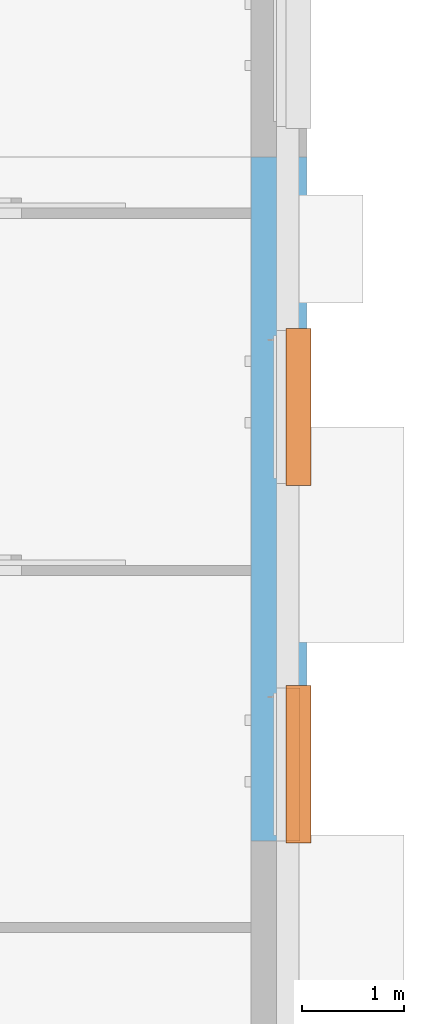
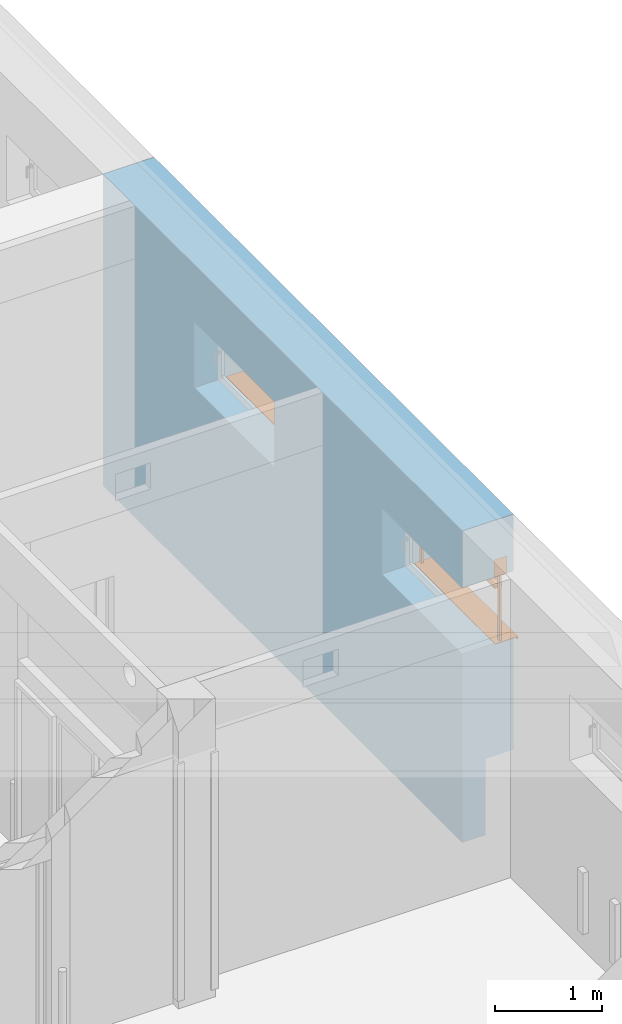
# One storey, part 112 of 140: 3 proxies, 2 openings, plus 1 element that does not belong to this part.
"""IFC4 building model written with IfcOpenShell, lengths in metres."""

from ifc_helpers import new_model, entity, si_unit, converted_unit, derived_unit, frame, frame_2d, origin, origin_with_axes, place, context, subcontext, project, spatial, polyline, rectangle, outline, extrude, clip, bounded_halfspace, faceted_brep, source, transform, mapped, material, layer, layer_set, layer_usage, element, fill, save


model = new_model("IFC4")

# Units and contexts
model_context = context("Model", 3, precision=1e-05, world=origin())
body_context = subcontext(model_context, "Body", "Model", "MODEL_VIEW")
ifc_project = project(units=[si_unit("LENGTHUNIT", "METRE"), si_unit("AREAUNIT", "SQUARE_METRE"), si_unit("VOLUMEUNIT", "CUBIC_METRE"), si_unit("MASSUNIT", "GRAM", prefix="KILO"), converted_unit("PLANEANGLEUNIT", "DEGREE", entity("IfcPlaneAngleMeasure", 0.0174532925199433), si_unit("PLANEANGLEUNIT", "RADIAN"), dimensions=[0, 0, 0, 0, 0, 0, 0]), derived_unit("THERMALTRANSMITTANCEUNIT", [(si_unit("POWERUNIT", "WATT"), 1), (si_unit("THERMODYNAMICTEMPERATUREUNIT", "KELVIN"), -1), (si_unit("LENGTHUNIT", "METRE"), -2)]), derived_unit("VOLUMETRICFLOWRATEUNIT", [(si_unit("LENGTHUNIT", "METRE"), 3), (converted_unit("TIMEUNIT", "hour", entity("IfcTimeMeasure", 3600.0), si_unit("TIMEUNIT", "SECOND"), dimensions=[0, 0, 1, 0, 0, 0, 0]), -1), (si_unit("LENGTHUNIT", "METRE"), -1)])], contexts=[model_context])

# Site, building, storey
site_placement = place(None, origin())
site = spatial("IfcSite", under=ifc_project, at=site_placement, Name="3. ASŘ", CompositionType="ELEMENT")
building_placement = place(site_placement, origin())
building = spatial("IfcBuilding", under=site, at=building_placement, Name="Pavilon C", CompositionType="ELEMENT")
storey_placement = place(building_placement, origin())
storey = spatial("IfcBuildingStorey", under=building, at=storey_placement, Name="Půdorys 1.NP", CompositionType="ELEMENT", Elevation=0.0)

# Wall, openings, proxies
ifc_material_1 = material(Name="ZELEZOBETONOVÁ KCE")
ifc_layer_1 = layer(ifc_material_1, 0.25)
ifc_material_2 = material(Name="MINERÁLNÍ VATA")
ifc_layer_2 = layer(ifc_material_2, 0.3)
ifc_layer_set = layer_set([ifc_layer_1, ifc_layer_2])
ifc_layer_usage = layer_usage(ifc_layer_set, "AXIS2", "POSITIVE", 0.0)
wall_placement = place(storey_placement, frame((63.55, 17.6, -0.15), z_axis=(0.0, 0.0, 1.0), x_axis=(0.0, -1.0, 0.0)))
wall = element("IfcWall", 1, at=wall_placement, inside=storey, material=ifc_layer_usage, Name="ZELEZOBETONOVÁ KCE", context=body_context, shape_type="Clipping", body=[
    clip(extrude(rectangle(XDim=6.7, YDim=0.55, at=frame_2d((3.35, 0.275), x_axis=(1.0, 0.0))), origin_with_axes(), (0.0, 0.0, 1.0), 3.55), bounded_halfspace(frame((3.35, 0.4, 0.87), z_axis=(1.69681847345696e-17, -3.78956125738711e-16, 1.0), x_axis=(0.0, -1.0, 0.0)), True, origin_with_axes(), polyline([(0.0, 0.55), (0.0, 0.249999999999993), (6.7, 0.249999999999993), (6.7, 0.55), (0.0, 0.55)]))),
])
opening_1_placement = place(wall_placement, frame((6.7, 0.25, 2.15), z_axis=(0.0, -1.0, 0.0), x_axis=(0.0, 0.0, 1.0)))
opening_1 = element("IfcOpeningElement", 2, at=opening_1_placement, cuts=wall, Name="Okenní otvor", ObjectType="Opening", context=body_context, shape_type="SweptSolid", body=[
    extrude(outline(polyline([(0.0, 1.5), (0.75, 1.5), (0.75, 0.0), (0.0, 0.0), (0.0, 1.5)])), origin_with_axes(), (0.0, 0.0, 1.0), 0.25),
    extrude(outline(polyline([(0.0, 1.5), (0.75, 1.5), (0.75, 0.0), (0.0, 0.0), (0.0, 1.5)])), frame((0.0, 0.0, -0.3), z_axis=(0.0, 0.0, 1.0), x_axis=(1.0, 0.0, 0.0)), (0.0, 0.0, 1.0), 0.3),
])
opening_2_placement = place(wall_placement, frame((3.2, 0.25, 2.15), z_axis=(0.0, -1.0, 0.0), x_axis=(0.0, 0.0, 1.0)))
opening_2 = element("IfcOpeningElement", 3, at=opening_2_placement, cuts=wall, Name="Okenní otvor", ObjectType="Opening", context=body_context, shape_type="SweptSolid", body=[
    extrude(outline(polyline([(0.0, 1.5), (0.75, 1.5), (0.75, 0.0), (0.0, 0.0), (0.0, 1.5)])), origin_with_axes(), (0.0, 0.0, 1.0), 0.25),
    extrude(outline(polyline([(0.0, 1.5), (0.75, 1.5), (0.75, 0.0), (0.0, 0.0), (0.0, 1.5)])), frame((0.0, 0.0, -0.3), z_axis=(0.0, 0.0, 1.0), x_axis=(1.0, 0.0, 0.0)), (0.0, 0.0, 1.0), 0.3),
])
ifc_material_3 = material(Name="HLINÍKOVÝ PLECH ELOXOVANÝ")
shared_shape_1 = source(origin_with_axes(), body_context, "Body", "Brep", [
    faceted_brep([(-3.63797880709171e-15, -0.299999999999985, 0.0), (-3.63797880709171e-15, -0.0919999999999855, 0.0), (-3.63797880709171e-15, -0.0919999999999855, 0.005), (-3.63797880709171e-15, -0.299999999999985, 0.005), (1.5, -0.299999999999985, 0.0), (1.5, -0.299999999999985, 0.005), (1.5, -0.0919999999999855, 0.005), (1.5, -0.0919999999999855, 0.0), (-0.0200000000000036, -0.299999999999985, 0.0), (-0.0200000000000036, -0.334999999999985, 0.0), (1.52, -0.334999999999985, 0.0), (1.52, -0.299999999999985, 0.0), (1.52, -0.299999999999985, 0.005), (1.52, -0.339999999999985, 0.005), (-0.0200000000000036, -0.339999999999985, 0.005), (-0.0200000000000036, -0.299999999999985, 0.005), (-0.0200000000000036, -0.339999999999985, -0.025), (-0.0200000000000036, -0.334999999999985, -0.025), (1.52, -0.334999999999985, -0.025), (1.52, -0.339999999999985, -0.025)], [[[0, 1, 2, 3]], [[4, 5, 6, 7]], [[1, 0, 8, 9, 10, 11, 4, 7]], [[2, 1, 7, 6]], [[3, 2, 6, 5, 12, 13, 14, 15]], [[8, 15, 14, 16, 17, 9]], [[11, 10, 18, 19, 13, 12]], [[15, 8, 0, 3]], [[5, 4, 11, 12]], [[16, 14, 13, 19]], [[17, 16, 19, 18]], [[9, 17, 18, 10]]], orient=[[False], [False], [False], [False], [False], [False], [False], [False], [False], [False], [False], [False]]),
    faceted_brep([(-0.0200000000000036, -0.299999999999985, 0.0), (-0.0200000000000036, -0.0919999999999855, 0.0), (-0.0200000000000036, -0.0919999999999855, 0.005), (-0.0200000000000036, -0.299999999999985, 0.005), (-3.63797880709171e-15, -0.299999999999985, 0.0), (-3.63797880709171e-15, -0.299999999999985, 0.005), (-3.63797880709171e-15, -0.0919999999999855, 0.005), (-3.63797880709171e-15, -0.0919999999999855, 0.0)], [[[0, 1, 2, 3]], [[4, 5, 6, 7]], [[1, 0, 4, 7]], [[2, 1, 7, 6]], [[3, 2, 6, 5]], [[0, 3, 5, 4]]], orient=[[False], [False], [False], [False], [False], [False]]),
    faceted_brep([(1.5, -0.299999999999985, 0.0), (1.5, -0.0919999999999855, 0.0), (1.5, -0.0919999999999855, 0.005), (1.5, -0.299999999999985, 0.005), (1.52, -0.299999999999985, 0.0), (1.52, -0.299999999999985, 0.005), (1.52, -0.0919999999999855, 0.005), (1.52, -0.0919999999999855, 0.0)], [[[0, 1, 2, 3]], [[4, 5, 6, 7]], [[1, 0, 4, 7]], [[2, 1, 7, 6]], [[3, 2, 6, 5]], [[0, 3, 5, 4]]], orient=[[False], [False], [False], [False], [False], [False]]),
])
proxy_1_placement = place(opening_1_placement, frame((0.0, 0.0, 0.0), z_axis=(1.0, 0.0, 0.0), x_axis=(0.0, 1.0, 0.0)))
proxy_1 = element("IfcBuildingElementProxy", 4, at=proxy_1_placement, inside=storey, material=ifc_material_3, Name="Parapet vnější", context=body_context, shape_type="MappedRepresentation", body=[
    mapped(shared_shape_1, transform((0.0, 0.0, 0.0), x_axis=(1.0, 0.0, 0.0), y_axis=(0.0, 1.0, 0.0), z_axis=(0.0, 0.0, 1.0), scale=1.0)),
])
fill(opening_1, proxy_1)
shared_shape_2 = source(origin_with_axes(), body_context, "Body", "Brep", [
    faceted_brep([(-3.63797880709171e-15, -0.231999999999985, 0.75), (-3.63797880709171e-15, -0.229999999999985, 0.75), (-3.63797880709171e-15, -0.229999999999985, 0.948), (-3.63797880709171e-15, -0.0939999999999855, 0.948), (-3.63797880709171e-15, -0.0939999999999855, 0.75), (-3.63797880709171e-15, -0.0919999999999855, 0.75), (-3.63797880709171e-15, -0.0919999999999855, 0.95), (-3.63797880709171e-15, -0.231999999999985, 0.95), (1.5, -0.229999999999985, 0.75), (1.5, -0.231999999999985, 0.75), (1.5, -0.231999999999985, 0.95), (1.5, -0.0919999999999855, 0.95), (1.5, -0.0919999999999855, 0.75), (1.5, -0.0939999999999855, 0.75), (1.5, -0.0939999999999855, 0.948), (1.5, -0.229999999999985, 0.948)], [[[0, 1, 2, 3, 4, 5, 6, 7]], [[8, 9, 10, 11, 12, 13, 14, 15]], [[1, 0, 9, 8]], [[2, 1, 8, 15]], [[3, 2, 15, 14]], [[4, 3, 14, 13]], [[5, 4, 13, 12]], [[6, 5, 12, 11]], [[7, 6, 11, 10]], [[0, 7, 10, 9]]], orient=[[False], [False], [False], [False], [False], [False], [False], [False], [False], [False]]),
    faceted_brep([(-3.63797880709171e-15, -0.229999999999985, 0.75), (-3.63797880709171e-15, -0.0939999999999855, 0.75), (-3.63797880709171e-15, -0.0939999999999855, 0.948), (-3.63797880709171e-15, -0.229999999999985, 0.948), (0.00199999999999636, -0.0939999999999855, 0.75), (0.00199999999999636, -0.229999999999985, 0.75), (0.00199999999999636, -0.229999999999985, 0.948), (0.00199999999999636, -0.0939999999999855, 0.948)], [[[0, 1, 2, 3]], [[4, 5, 6, 7]], [[1, 0, 5, 4]], [[2, 1, 4, 7]], [[3, 2, 7, 6]], [[0, 3, 6, 5]]], orient=[[False], [False], [False], [False], [False], [False]]),
    faceted_brep([(1.498, -0.229999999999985, 0.75), (1.498, -0.0939999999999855, 0.75), (1.498, -0.0939999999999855, 0.948), (1.498, -0.229999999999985, 0.948), (1.5, -0.0939999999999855, 0.75), (1.5, -0.229999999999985, 0.75), (1.5, -0.229999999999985, 0.948), (1.5, -0.0939999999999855, 0.948)], [[[0, 1, 2, 3]], [[4, 5, 6, 7]], [[1, 0, 5, 4]], [[2, 1, 4, 7]], [[3, 2, 7, 6]], [[0, 3, 6, 5]]], orient=[[False], [False], [False], [False], [False], [False]]),
    faceted_brep([(0.00199999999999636, -0.151999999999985, 0.0), (0.00199999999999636, -0.171999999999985, 0.0), (0.0419999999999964, -0.171999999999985, 0.0), (0.0419999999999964, -0.151999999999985, 0.0), (0.00199999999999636, -0.171999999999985, 0.769), (0.00199999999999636, -0.151999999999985, 0.769), (0.0419999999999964, -0.151999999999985, 0.769), (0.0419999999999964, -0.171999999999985, 0.769)], [[[0, 1, 2, 3]], [[4, 5, 6, 7]], [[1, 0, 5, 4]], [[2, 1, 4, 7]], [[3, 2, 7, 6]], [[0, 3, 6, 5]]], orient=[[False], [False], [False], [False], [False], [False]]),
    faceted_brep([(1.458, -0.151999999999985, 0.0), (1.458, -0.171999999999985, 0.0), (1.498, -0.171999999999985, 0.0), (1.498, -0.151999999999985, 0.0), (1.458, -0.171999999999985, 0.769), (1.458, -0.151999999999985, 0.769), (1.498, -0.151999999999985, 0.769), (1.498, -0.171999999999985, 0.769)], [[[0, 1, 2, 3]], [[4, 5, 6, 7]], [[1, 0, 5, 4]], [[2, 1, 4, 7]], [[3, 2, 7, 6]], [[0, 3, 6, 5]]], orient=[[False], [False], [False], [False], [False], [False]]),
    faceted_brep([(0.0419999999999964, -0.121999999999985, 0.6021), (0.0419999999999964, -0.201999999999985, 0.6021), (0.0419999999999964, -0.201999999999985, 0.5871), (0.0419999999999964, -0.121999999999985, 0.5871), (1.458, -0.201999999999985, 0.6021), (1.458, -0.121999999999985, 0.6021), (1.458, -0.121999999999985, 0.5871), (1.458, -0.201999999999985, 0.5871)], [[[0, 1, 2, 3]], [[4, 5, 6, 7]], [[1, 0, 5, 4]], [[2, 1, 4, 7]], [[3, 2, 7, 6]], [[0, 3, 6, 5]]], orient=[[False], [False], [False], [False], [False], [False]]),
    faceted_brep([(0.0419999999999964, -0.121999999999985, 0.6031), (0.0419999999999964, -0.201999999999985, 0.6031), (0.0419999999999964, -0.201999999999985, 0.6021), (0.0419999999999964, -0.121999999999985, 0.6021), (1.458, -0.201999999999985, 0.6031), (1.458, -0.121999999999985, 0.6031), (1.458, -0.121999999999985, 0.6021), (1.458, -0.201999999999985, 0.6021)], [[[0, 1, 2, 3]], [[4, 5, 6, 7]], [[1, 0, 5, 4]], [[2, 1, 4, 7]], [[3, 2, 7, 6]], [[0, 3, 6, 5]]], orient=[[False], [False], [False], [False], [False], [False]]),
    faceted_brep([(0.0419999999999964, -0.121999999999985, 0.6041), (0.0419999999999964, -0.201999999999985, 0.6041), (0.0419999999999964, -0.201999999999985, 0.6031), (0.0419999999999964, -0.121999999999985, 0.6031), (1.458, -0.201999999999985, 0.6041), (1.458, -0.121999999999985, 0.6041), (1.458, -0.121999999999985, 0.6031), (1.458, -0.201999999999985, 0.6031)], [[[0, 1, 2, 3]], [[4, 5, 6, 7]], [[1, 0, 5, 4]], [[2, 1, 4, 7]], [[3, 2, 7, 6]], [[0, 3, 6, 5]]], orient=[[False], [False], [False], [False], [False], [False]]),
    faceted_brep([(0.0419999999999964, -0.121999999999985, 0.6051), (0.0419999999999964, -0.201999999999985, 0.6051), (0.0419999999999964, -0.201999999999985, 0.6041), (0.0419999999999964, -0.121999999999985, 0.6041), (1.458, -0.201999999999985, 0.6051), (1.458, -0.121999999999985, 0.6051), (1.458, -0.121999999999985, 0.6041), (1.458, -0.201999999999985, 0.6041)], [[[0, 1, 2, 3]], [[4, 5, 6, 7]], [[1, 0, 5, 4]], [[2, 1, 4, 7]], [[3, 2, 7, 6]], [[0, 3, 6, 5]]], orient=[[False], [False], [False], [False], [False], [False]]),
    faceted_brep([(0.0419999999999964, -0.121999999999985, 0.6061), (0.0419999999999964, -0.201999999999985, 0.6061), (0.0419999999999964, -0.201999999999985, 0.6051), (0.0419999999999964, -0.121999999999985, 0.6051), (1.458, -0.201999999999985, 0.6061), (1.458, -0.121999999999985, 0.6061), (1.458, -0.121999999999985, 0.6051), (1.458, -0.201999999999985, 0.6051)], [[[0, 1, 2, 3]], [[4, 5, 6, 7]], [[1, 0, 5, 4]], [[2, 1, 4, 7]], [[3, 2, 7, 6]], [[0, 3, 6, 5]]], orient=[[False], [False], [False], [False], [False], [False]]),
    faceted_brep([(0.0419999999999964, -0.121999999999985, 0.6071), (0.0419999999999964, -0.201999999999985, 0.6071), (0.0419999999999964, -0.201999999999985, 0.6061), (0.0419999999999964, -0.121999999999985, 0.6061), (1.458, -0.201999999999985, 0.6071), (1.458, -0.121999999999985, 0.6071), (1.458, -0.121999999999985, 0.6061), (1.458, -0.201999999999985, 0.6061)], [[[0, 1, 2, 3]], [[4, 5, 6, 7]], [[1, 0, 5, 4]], [[2, 1, 4, 7]], [[3, 2, 7, 6]], [[0, 3, 6, 5]]], orient=[[False], [False], [False], [False], [False], [False]]),
    faceted_brep([(0.0419999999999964, -0.121999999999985, 0.6081), (0.0419999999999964, -0.201999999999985, 0.6081), (0.0419999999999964, -0.201999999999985, 0.6071), (0.0419999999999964, -0.121999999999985, 0.6071), (1.458, -0.201999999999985, 0.6081), (1.458, -0.121999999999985, 0.6081), (1.458, -0.121999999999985, 0.6071), (1.458, -0.201999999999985, 0.6071)], [[[0, 1, 2, 3]], [[4, 5, 6, 7]], [[1, 0, 5, 4]], [[2, 1, 4, 7]], [[3, 2, 7, 6]], [[0, 3, 6, 5]]], orient=[[False], [False], [False], [False], [False], [False]]),
    faceted_brep([(0.0419999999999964, -0.121999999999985, 0.6091), (0.0419999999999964, -0.201999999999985, 0.6091), (0.0419999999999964, -0.201999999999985, 0.6081), (0.0419999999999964, -0.121999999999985, 0.6081), (1.458, -0.201999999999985, 0.6091), (1.458, -0.121999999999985, 0.6091), (1.458, -0.121999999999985, 0.6081), (1.458, -0.201999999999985, 0.6081)], [[[0, 1, 2, 3]], [[4, 5, 6, 7]], [[1, 0, 5, 4]], [[2, 1, 4, 7]], [[3, 2, 7, 6]], [[0, 3, 6, 5]]], orient=[[False], [False], [False], [False], [False], [False]]),
    faceted_brep([(0.0419999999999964, -0.121999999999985, 0.6101), (0.0419999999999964, -0.201999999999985, 0.6101), (0.0419999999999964, -0.201999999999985, 0.6091), (0.0419999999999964, -0.121999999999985, 0.6091), (1.458, -0.201999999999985, 0.6101), (1.458, -0.121999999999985, 0.6101), (1.458, -0.121999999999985, 0.6091), (1.458, -0.201999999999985, 0.6091)], [[[0, 1, 2, 3]], [[4, 5, 6, 7]], [[1, 0, 5, 4]], [[2, 1, 4, 7]], [[3, 2, 7, 6]], [[0, 3, 6, 5]]], orient=[[False], [False], [False], [False], [False], [False]]),
    faceted_brep([(0.0419999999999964, -0.121999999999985, 0.6111), (0.0419999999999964, -0.201999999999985, 0.6111), (0.0419999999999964, -0.201999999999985, 0.6101), (0.0419999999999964, -0.121999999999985, 0.6101), (1.458, -0.201999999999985, 0.6111), (1.458, -0.121999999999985, 0.6111), (1.458, -0.121999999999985, 0.6101), (1.458, -0.201999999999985, 0.6101)], [[[0, 1, 2, 3]], [[4, 5, 6, 7]], [[1, 0, 5, 4]], [[2, 1, 4, 7]], [[3, 2, 7, 6]], [[0, 3, 6, 5]]], orient=[[False], [False], [False], [False], [False], [False]]),
    faceted_brep([(0.0419999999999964, -0.121999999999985, 0.6121), (0.0419999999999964, -0.201999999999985, 0.6121), (0.0419999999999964, -0.201999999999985, 0.6111), (0.0419999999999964, -0.121999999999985, 0.6111), (1.458, -0.201999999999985, 0.6121), (1.458, -0.121999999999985, 0.6121), (1.458, -0.121999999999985, 0.6111), (1.458, -0.201999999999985, 0.6111)], [[[0, 1, 2, 3]], [[4, 5, 6, 7]], [[1, 0, 5, 4]], [[2, 1, 4, 7]], [[3, 2, 7, 6]], [[0, 3, 6, 5]]], orient=[[False], [False], [False], [False], [False], [False]]),
    faceted_brep([(0.0419999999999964, -0.121999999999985, 0.6131), (0.0419999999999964, -0.201999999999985, 0.6131), (0.0419999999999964, -0.201999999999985, 0.6121), (0.0419999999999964, -0.121999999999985, 0.6121), (1.458, -0.201999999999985, 0.6131), (1.458, -0.121999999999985, 0.6131), (1.458, -0.121999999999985, 0.6121), (1.458, -0.201999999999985, 0.6121)], [[[0, 1, 2, 3]], [[4, 5, 6, 7]], [[1, 0, 5, 4]], [[2, 1, 4, 7]], [[3, 2, 7, 6]], [[0, 3, 6, 5]]], orient=[[False], [False], [False], [False], [False], [False]]),
    faceted_brep([(0.0419999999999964, -0.121999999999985, 0.6141), (0.0419999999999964, -0.201999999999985, 0.6141), (0.0419999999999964, -0.201999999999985, 0.6131), (0.0419999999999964, -0.121999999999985, 0.6131), (1.458, -0.201999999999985, 0.6141), (1.458, -0.121999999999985, 0.6141), (1.458, -0.121999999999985, 0.6131), (1.458, -0.201999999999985, 0.6131)], [[[0, 1, 2, 3]], [[4, 5, 6, 7]], [[1, 0, 5, 4]], [[2, 1, 4, 7]], [[3, 2, 7, 6]], [[0, 3, 6, 5]]], orient=[[False], [False], [False], [False], [False], [False]]),
    faceted_brep([(0.0419999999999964, -0.121999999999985, 0.6151), (0.0419999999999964, -0.201999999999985, 0.6151), (0.0419999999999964, -0.201999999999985, 0.6141), (0.0419999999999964, -0.121999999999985, 0.6141), (1.458, -0.201999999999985, 0.6151), (1.458, -0.121999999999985, 0.6151), (1.458, -0.121999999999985, 0.6141), (1.458, -0.201999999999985, 0.6141)], [[[0, 1, 2, 3]], [[4, 5, 6, 7]], [[1, 0, 5, 4]], [[2, 1, 4, 7]], [[3, 2, 7, 6]], [[0, 3, 6, 5]]], orient=[[False], [False], [False], [False], [False], [False]]),
    faceted_brep([(0.0419999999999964, -0.121999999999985, 0.6161), (0.0419999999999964, -0.201999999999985, 0.6161), (0.0419999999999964, -0.201999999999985, 0.6151), (0.0419999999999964, -0.121999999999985, 0.6151), (1.458, -0.201999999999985, 0.6161), (1.458, -0.121999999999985, 0.6161), (1.458, -0.121999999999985, 0.6151), (1.458, -0.201999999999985, 0.6151)], [[[0, 1, 2, 3]], [[4, 5, 6, 7]], [[1, 0, 5, 4]], [[2, 1, 4, 7]], [[3, 2, 7, 6]], [[0, 3, 6, 5]]], orient=[[False], [False], [False], [False], [False], [False]]),
    faceted_brep([(0.0419999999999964, -0.123299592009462, 0.645125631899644), (0.0419999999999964, -0.200941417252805, 0.625844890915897), (0.0419999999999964, -0.200700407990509, 0.624874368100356), (0.0419999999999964, -0.123058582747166, 0.644155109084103), (1.458, -0.200941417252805, 0.625844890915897), (1.458, -0.123299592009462, 0.645125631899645), (1.458, -0.123058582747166, 0.644155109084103), (1.458, -0.200700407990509, 0.624874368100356)], [[[0, 1, 2, 3]], [[4, 5, 6, 7]], [[1, 0, 5, 4]], [[2, 1, 4, 7]], [[3, 2, 7, 6]], [[0, 3, 6, 5]]], orient=[[False], [False], [False], [False], [False], [False]]),
    faceted_brep([(0.0419999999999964, -0.127608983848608, 0.700433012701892), (0.0419999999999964, -0.196891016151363, 0.660433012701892), (0.0419999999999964, -0.196391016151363, 0.659566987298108), (0.0419999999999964, -0.127108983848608, 0.699566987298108), (1.458, -0.196891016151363, 0.660433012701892), (1.458, -0.127608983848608, 0.700433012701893), (1.458, -0.127108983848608, 0.699566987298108), (1.458, -0.196391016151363, 0.659566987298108)], [[[0, 1, 2, 3]], [[4, 5, 6, 7]], [[1, 0, 5, 4]], [[2, 1, 4, 7]], [[3, 2, 7, 6]], [[0, 3, 6, 5]]], orient=[[False], [False], [False], [False], [False], [False]]),
    faceted_brep([(0.0419999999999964, -0.127608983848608, 0.745433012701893), (0.0419999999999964, -0.196891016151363, 0.705433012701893), (0.0419999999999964, -0.196391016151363, 0.704566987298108), (0.0419999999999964, -0.127108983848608, 0.744566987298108), (1.458, -0.196891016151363, 0.705433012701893), (1.458, -0.127608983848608, 0.745433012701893), (1.458, -0.127108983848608, 0.744566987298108), (1.458, -0.196391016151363, 0.704566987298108)], [[[0, 1, 2, 3]], [[4, 5, 6, 7]], [[1, 0, 5, 4]], [[2, 1, 4, 7]], [[3, 2, 7, 6]], [[0, 3, 6, 5]]], orient=[[False], [False], [False], [False], [False], [False]]),
])
proxy_2_placement = place(opening_1_placement, frame((0.0, 0.0, 0.0), z_axis=(1.0, 0.0, 0.0), x_axis=(0.0, 1.0, 0.0)))
proxy_2 = element("IfcBuildingElementProxy", 5, at=proxy_2_placement, inside=storey, Name="Žaluzie", context=body_context, shape_type="MappedRepresentation", body=[
    mapped(shared_shape_2, transform((0.0, 0.0, 0.0), x_axis=(1.0, 0.0, 0.0), y_axis=(0.0, 1.0, 0.0), z_axis=(0.0, 0.0, 1.0), scale=1.0)),
])
fill(opening_1, proxy_2)
ifc_material_4 = material(Name="HLINÍKOVÝ PLECH ELOXOVANÝ")
shared_shape_3 = source(origin_with_axes(), body_context, "Body", "Brep", [
    faceted_brep([(-3.63797880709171e-15, -0.299999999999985, 0.0), (-3.63797880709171e-15, -0.0919999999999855, 0.0), (-3.63797880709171e-15, -0.0919999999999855, 0.005), (-3.63797880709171e-15, -0.299999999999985, 0.005), (1.5, -0.299999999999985, 0.0), (1.5, -0.299999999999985, 0.005), (1.5, -0.0919999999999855, 0.005), (1.5, -0.0919999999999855, 0.0), (-0.0200000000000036, -0.299999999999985, 0.0), (-0.0200000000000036, -0.334999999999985, 0.0), (1.52, -0.334999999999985, 0.0), (1.52, -0.299999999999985, 0.0), (1.52, -0.299999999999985, 0.005), (1.52, -0.339999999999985, 0.005), (-0.0200000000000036, -0.339999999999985, 0.005), (-0.0200000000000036, -0.299999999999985, 0.005), (-0.0200000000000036, -0.339999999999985, -0.025), (-0.0200000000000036, -0.334999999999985, -0.025), (1.52, -0.334999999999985, -0.025), (1.52, -0.339999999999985, -0.025)], [[[0, 1, 2, 3]], [[4, 5, 6, 7]], [[1, 0, 8, 9, 10, 11, 4, 7]], [[2, 1, 7, 6]], [[3, 2, 6, 5, 12, 13, 14, 15]], [[8, 15, 14, 16, 17, 9]], [[11, 10, 18, 19, 13, 12]], [[15, 8, 0, 3]], [[5, 4, 11, 12]], [[16, 14, 13, 19]], [[17, 16, 19, 18]], [[9, 17, 18, 10]]], orient=[[False], [False], [False], [False], [False], [False], [False], [False], [False], [False], [False], [False]]),
    faceted_brep([(-0.0200000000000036, -0.299999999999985, 0.0), (-0.0200000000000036, -0.0919999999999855, 0.0), (-0.0200000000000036, -0.0919999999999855, 0.005), (-0.0200000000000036, -0.299999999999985, 0.005), (-3.63797880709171e-15, -0.299999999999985, 0.0), (-3.63797880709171e-15, -0.299999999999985, 0.005), (-3.63797880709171e-15, -0.0919999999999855, 0.005), (-3.63797880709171e-15, -0.0919999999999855, 0.0)], [[[0, 1, 2, 3]], [[4, 5, 6, 7]], [[1, 0, 4, 7]], [[2, 1, 7, 6]], [[3, 2, 6, 5]], [[0, 3, 5, 4]]], orient=[[False], [False], [False], [False], [False], [False]]),
    faceted_brep([(1.5, -0.299999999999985, 0.0), (1.5, -0.0919999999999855, 0.0), (1.5, -0.0919999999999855, 0.005), (1.5, -0.299999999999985, 0.005), (1.52, -0.299999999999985, 0.0), (1.52, -0.299999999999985, 0.005), (1.52, -0.0919999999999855, 0.005), (1.52, -0.0919999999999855, 0.0)], [[[0, 1, 2, 3]], [[4, 5, 6, 7]], [[1, 0, 4, 7]], [[2, 1, 7, 6]], [[3, 2, 6, 5]], [[0, 3, 5, 4]]], orient=[[False], [False], [False], [False], [False], [False]]),
])
proxy_3_placement = place(opening_2_placement, frame((0.0, 0.0, 0.0), z_axis=(1.0, 0.0, 0.0), x_axis=(0.0, 1.0, 0.0)))
proxy_3 = element("IfcBuildingElementProxy", 6, at=proxy_3_placement, inside=storey, material=ifc_material_4, Name="Parapet vnější", context=body_context, shape_type="MappedRepresentation", body=[
    mapped(shared_shape_3, transform((0.0, 0.0, 0.0), x_axis=(1.0, 0.0, 0.0), y_axis=(0.0, 1.0, 0.0), z_axis=(0.0, 0.0, 1.0), scale=1.0)),
])
fill(opening_2, proxy_3)

save(model, "model.ifc")
